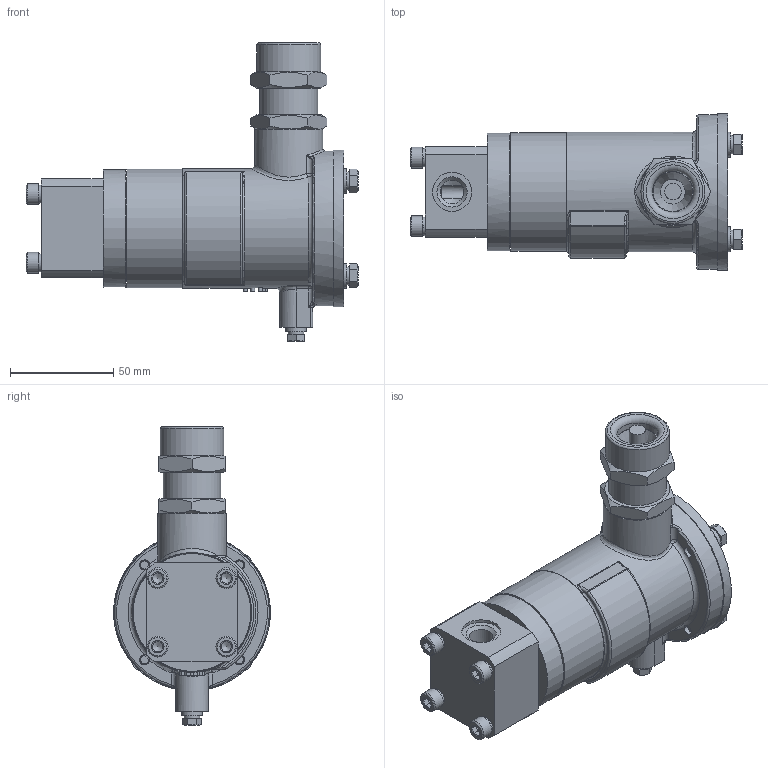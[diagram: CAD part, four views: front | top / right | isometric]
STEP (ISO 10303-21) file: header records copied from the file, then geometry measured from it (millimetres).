
FILE_DESCRIPTION(('STEP AP203'), '1');
FILE_NAME('捇迕 DN6PN10-G1_4-0', '', ('UNSPECIFIED'), ('UNSPECIFIED'), 'C3D Converter', 'C3D Toolkit', '');
FILE_SCHEMA(('CONFIG_CONTROL_DESIGN'));
Length unit declared in the file: millimetre
Bounding box: 160.9 x 76 x 144.7 mm (x, y, z)
Volume: 420838.5 mm3; surface area: 67832.7 mm2
Topology: 1 solids, 1 shells, 1107 faces, 2907 edges, 1866 vertices
Faces by surface type: plane 470, extrusion 399, cylinder 125, cone 63, bspline 25, torus 21, sphere 4
Full cylindrical faces by diameter (mm): 1.8 x1, 3.1 x2, 3.5 x4, 4.917 x8, 5 x5, 5.3 x1, 6 x8, 6.4 x4, 6.5 x5, 7 x5, 8 x1, 10 x6, 11.445 x2, 12 x5, 19 x2, 20 x1, 22 x1, 25 x1, 26 x1, 28 x2, 31 x1, 32 x1, 33 x1, 36 x1, 57 x1, 57.5 x1, 58 x1, 75 x1, 76 x1
Entity records: 39972 total; most frequent: CARTESIAN_POINT 15137, ORIENTED_EDGE 5470, DIRECTION 3924, EDGE_CURVE 2735, VERTEX_POINT 1855, VECTOR 1708, B_SPLINE_CURVE_WITH_KNOTS 1365, EDGE_LOOP 1352
